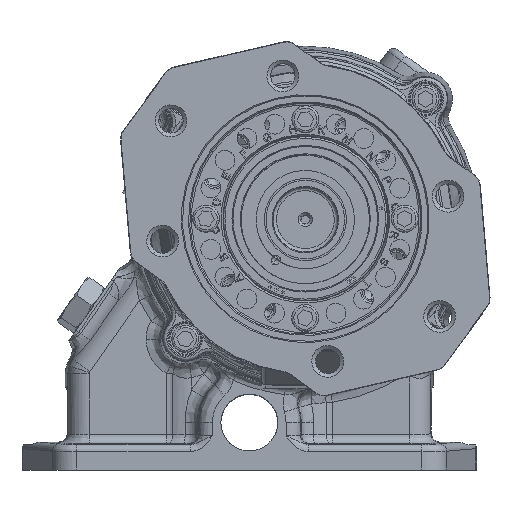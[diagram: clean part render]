
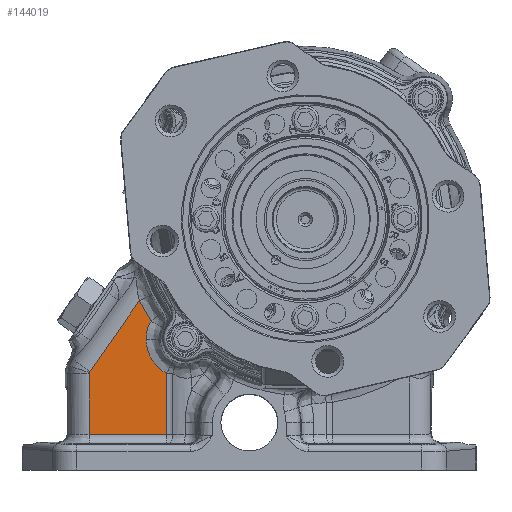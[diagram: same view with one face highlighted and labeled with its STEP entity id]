
A CAD part, top view. The second image highlights one B-rep face of the part: STEP entity #144019.
In plain terms, the highlighted planar face has unit normal (0, 0, 1).
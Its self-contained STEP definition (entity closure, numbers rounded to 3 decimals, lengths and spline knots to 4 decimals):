
#164 = CARTESIAN_POINT ( 'NONE',  ( -2.0813, 0.1191, 1.3875 ) ) ;
#534 = CARTESIAN_POINT ( 'NONE',  ( -2.486, 0.6969, 1.3875 ) ) ;
#4812 = CARTESIAN_POINT ( 'NONE',  ( -2.7136, 0.835, 1.3875 ) ) ;
#5354 = EDGE_CURVE ( 'NONE', #73165, #154603, #139060, .T. ) ;
#5367 = EDGE_CURVE ( 'NONE', #17516, #119944, #85862, .T. ) ;
#5646 = ORIENTED_EDGE ( 'NONE', *, *, #5367, .T. ) ;
#7682 = DIRECTION ( 'NONE',  ( -0.512, 0.859, 0. ) ) ;
#7962 = CARTESIAN_POINT ( 'NONE',  ( -1.8382, 0.0126, 1.3875 ) ) ;
#8598 = CARTESIAN_POINT ( 'NONE',  ( -2.7136, 0.835, 1.3875 ) ) ;
#8752 = ORIENTED_EDGE ( 'NONE', *, *, #5354, .F. ) ;
#10852 = CARTESIAN_POINT ( 'NONE',  ( -2.2717, 0.3266, 1.3875 ) ) ;
#10942 = EDGE_LOOP ( 'NONE', ( #166608, #137027, #65427, #150189, #153802, #5646, #95548, #8752, #119656 ) ) ;
#11171 = EDGE_CURVE ( 'NONE', #150808, #17516, #121508, .T. ) ;
#12205 = EDGE_CURVE ( 'NONE', #98579, #102241, #146286, .T. ) ;
#16896 = AXIS2_PLACEMENT_3D ( 'NONE', #166226, #102718, #7682 ) ;
#17040 = CARTESIAN_POINT ( 'NONE',  ( 0.9372, 0.319, 1.3875 ) ) ;
#17247 = VECTOR ( 'NONE', #39703, 39.3701 ) ;
#17516 = VERTEX_POINT ( 'NONE', #90486 ) ;
#17781 = VECTOR ( 'NONE', #69276, 39.3701 ) ;
#18930 = CARTESIAN_POINT ( 'NONE',  ( -2.8217, -0.6695, 1.3875 ) ) ;
#19920 = CARTESIAN_POINT ( 'NONE',  ( -2.7136, 0.835, 1.3875 ) ) ;
#20827 = CARTESIAN_POINT ( 'NONE',  ( -1.7947, 0.0041, 1.3875 ) ) ;
#25585 = EDGE_CURVE ( 'NONE', #54973, #98579, #134473, .T. ) ;
#25883 = CARTESIAN_POINT ( 'NONE',  ( -2.205, 0.2296, 1.3875 ) ) ;
#29685 = DIRECTION ( 'NONE',  ( -0.074, -0.997, 0. ) ) ;
#35986 = DIRECTION ( 'NONE',  ( -0.512, 0.859, 0. ) ) ;
#37034 = CARTESIAN_POINT ( 'NONE',  ( -2.1599, 0.1856, 1.3875 ) ) ;
#37166 = LINE ( 'NONE', #90275, #17247 ) ;
#39081 = CARTESIAN_POINT ( 'NONE',  ( -2.8233, -0.6626, 1.3875 ) ) ;
#39703 = DIRECTION ( 'NONE',  ( -0.512, 0.859, 0. ) ) ;
#40440 = CARTESIAN_POINT ( 'NONE',  ( -2.1613, 0.187, 1.3875 ) ) ;
#52812 = CARTESIAN_POINT ( 'NONE',  ( -2.3539, 0.5297, 1.3875 ) ) ;
#53261 = CARTESIAN_POINT ( 'NONE',  ( -2.1431, 0.1699, 1.3875 ) ) ;
#54973 = VERTEX_POINT ( 'NONE', #149480 ) ;
#59320 = VERTEX_POINT ( 'NONE', #114776 ) ;
#59812 = VECTOR ( 'NONE', #29685, 39.3701 ) ;
#61477 = CARTESIAN_POINT ( 'NONE',  ( -2.8137, -0.6892, 1.3875 ) ) ;
#61894 = CARTESIAN_POINT ( 'NONE',  ( -1.6701, -0.0034, 1.3875 ) ) ;
#62500 = B_SPLINE_CURVE_WITH_KNOTS ( 'NONE', 3,
 ( #61894, #85919, #138247, #20827, #73063, #125378, #7962, #66109, #143310, #105549, #119267, #91861, #164, #130461, #53261, #168190, #145015, #37034, #40440, #25883, #157878, #76442 ),
 .UNSPECIFIED., .F., .F.,
 ( 4, 1, 1, 1, 1, 2, 2, 2, 1, 1, 1, 1, 2, 2, 4 ),
 ( 0., 0.125, 0.1875, 0.2187, 0.2344, 0.2422, 0.25, 0.5, 0.625, 0.6875, 0.7187, 0.7344, 0.7422, 0.75, 1. ),
 .UNSPECIFIED. ) ;
#63944 = CARTESIAN_POINT ( 'NONE',  ( -2.8233, -0.6483, 1.3875 ) ) ;
#65427 = ORIENTED_EDGE ( 'NONE', *, *, #12205, .T. ) ;
#65647 = CARTESIAN_POINT ( 'NONE',  ( -2.8239, -0.6554, 1.3875 ) ) ;
#65669 = CARTESIAN_POINT ( 'NONE',  ( -2.2717, 0.3266, 1.3875 ) ) ;
#66109 = CARTESIAN_POINT ( 'NONE',  ( -1.8418, 0.0134, 1.3875 ) ) ;
#69276 = DIRECTION ( 'NONE',  ( 0.859, 0.512, 0. ) ) ;
#72100 = CARTESIAN_POINT ( 'NONE',  ( -1.6701, -0.0034, 1.3875 ) ) ;
#73063 = CARTESIAN_POINT ( 'NONE',  ( -1.8201, 0.0088, 1.3875 ) ) ;
#73165 = VERTEX_POINT ( 'NONE', #107605 ) ;
#76442 = CARTESIAN_POINT ( 'NONE',  ( -2.2717, 0.3266, 1.3875 ) ) ;
#85862 = B_SPLINE_CURVE_WITH_KNOTS ( 'NONE', 3,
 ( #88849, #534, #100896, #19920 ),
 .UNSPECIFIED., .F., .F.,
 ( 4, 4 ),
 ( 0., 1. ),
 .UNSPECIFIED. ) ;
#85919 = CARTESIAN_POINT ( 'NONE',  ( -1.6997, -0.0043, 1.3875 ) ) ;
#88849 = CARTESIAN_POINT ( 'NONE',  ( -2.366, 0.6387, 1.3875 ) ) ;
#89818 = CARTESIAN_POINT ( 'NONE',  ( -1.1294, -0.9114, 1.3875 ) ) ;
#90275 = CARTESIAN_POINT ( 'NONE',  ( -4.181, 1.6073, 1.3875 ) ) ;
#90486 = CARTESIAN_POINT ( 'NONE',  ( -2.366, 0.6387, 1.3875 ) ) ;
#91861 = CARTESIAN_POINT ( 'NONE',  ( -2.0428, 0.0944, 1.3875 ) ) ;
#92267 = CARTESIAN_POINT ( 'NONE',  ( -2.3633, 0.5836, 1.3875 ) ) ;
#95548 = ORIENTED_EDGE ( 'NONE', *, *, #122757, .T. ) ;
#98579 = VERTEX_POINT ( 'NONE', #89818 ) ;
#100896 = CARTESIAN_POINT ( 'NONE',  ( -2.6018, 0.7623, 1.3875 ) ) ;
#102241 = VERTEX_POINT ( 'NONE', #72100 ) ;
#102718 = DIRECTION ( 'NONE',  ( 0., 0., 1. ) ) ;
#105549 = CARTESIAN_POINT ( 'NONE',  ( -1.9051, 0.0283, 1.3875 ) ) ;
#107605 = CARTESIAN_POINT ( 'NONE',  ( -2.8217, -0.6695, 1.3875 ) ) ;
#114776 = CARTESIAN_POINT ( 'NONE',  ( -2.8137, -0.6892, 1.3875 ) ) ;
#117956 = CARTESIAN_POINT ( 'NONE',  ( -2.322, 0.4241, 1.3875 ) ) ;
#119267 = CARTESIAN_POINT ( 'NONE',  ( -1.962, 0.0501, 1.3875 ) ) ;
#119656 = ORIENTED_EDGE ( 'NONE', *, *, #123699, .T. ) ;
#119944 = VERTEX_POINT ( 'NONE', #8598 ) ;
#121508 = B_SPLINE_CURVE_WITH_KNOTS ( 'NONE', 3,
 ( #65669, #129161, #117956, #52812, #92267, #158286 ),
 .UNSPECIFIED., .F., .F.,
 ( 4, 2, 4 ),
 ( 0., 0.5, 1. ),
 .UNSPECIFIED. ) ;
#122757 = EDGE_CURVE ( 'NONE', #119944, #154603, #136771, .T. ) ;
#123699 = EDGE_CURVE ( 'NONE', #73165, #59320, #159639, .T. ) ;
#125378 = CARTESIAN_POINT ( 'NONE',  ( -1.8327, 0.0114, 1.3875 ) ) ;
#126649 = CARTESIAN_POINT ( 'NONE',  ( -2.82, -0.6765, 1.3875 ) ) ;
#127521 = CARTESIAN_POINT ( 'NONE',  ( -2.8173, -0.6831, 1.3875 ) ) ;
#128481 = FACE_OUTER_BOUND ( 'NONE', #10942, .T. ) ;
#129161 = CARTESIAN_POINT ( 'NONE',  ( -2.2999, 0.374, 1.3875 ) ) ;
#130461 = CARTESIAN_POINT ( 'NONE',  ( -2.123, 0.1522, 1.3875 ) ) ;
#134473 = LINE ( 'NONE', #17040, #17781 ) ;
#136771 = LINE ( 'NONE', #4812, #59812 ) ;
#137027 = ORIENTED_EDGE ( 'NONE', *, *, #25585, .T. ) ;
#138247 = CARTESIAN_POINT ( 'NONE',  ( -1.7438, -0.0027, 1.3875 ) ) ;
#139060 = B_SPLINE_CURVE_WITH_KNOTS ( 'NONE', 3,
 ( #156543, #39081, #65647, #141176 ),
 .UNSPECIFIED., .F., .F.,
 ( 4, 4 ),
 ( 0., 1. ),
 .UNSPECIFIED. ) ;
#141176 = CARTESIAN_POINT ( 'NONE',  ( -2.8233, -0.6483, 1.3875 ) ) ;
#143310 = CARTESIAN_POINT ( 'NONE',  ( -1.8435, 0.0138, 1.3875 ) ) ;
#144019 = ADVANCED_FACE ( 'NONE', ( #128481 ), #152522, .T. ) ;
#145015 = CARTESIAN_POINT ( 'NONE',  ( -2.1571, 0.1829, 1.3875 ) ) ;
#146286 = LINE ( 'NONE', #159144, #168305 ) ;
#147250 = EDGE_CURVE ( 'NONE', #54973, #59320, #37166, .T. ) ;
#149480 = CARTESIAN_POINT ( 'NONE',  ( -2.2752, -1.5936, 1.3875 ) ) ;
#150189 = ORIENTED_EDGE ( 'NONE', *, *, #153761, .T. ) ;
#150808 = VERTEX_POINT ( 'NONE', #10852 ) ;
#152522 = PLANE ( 'NONE',  #16896 ) ;
#153761 = EDGE_CURVE ( 'NONE', #102241, #150808, #62500, .T. ) ;
#153802 = ORIENTED_EDGE ( 'NONE', *, *, #11171, .T. ) ;
#154603 = VERTEX_POINT ( 'NONE', #63944 ) ;
#156543 = CARTESIAN_POINT ( 'NONE',  ( -2.8217, -0.6695, 1.3875 ) ) ;
#157878 = CARTESIAN_POINT ( 'NONE',  ( -2.2414, 0.2757, 1.3875 ) ) ;
#158286 = CARTESIAN_POINT ( 'NONE',  ( -2.366, 0.6387, 1.3875 ) ) ;
#159144 = CARTESIAN_POINT ( 'NONE',  ( -3.0352, 2.2894, 1.3875 ) ) ;
#159639 = B_SPLINE_CURVE_WITH_KNOTS ( 'NONE', 3,
 ( #18930, #126649, #127521, #61477 ),
 .UNSPECIFIED., .F., .F.,
 ( 4, 4 ),
 ( 0., 1. ),
 .UNSPECIFIED. ) ;
#166226 = CARTESIAN_POINT ( 'NONE',  ( -0.9685, 3.5199, 1.3875 ) ) ;
#166608 = ORIENTED_EDGE ( 'NONE', *, *, #147250, .F. ) ;
#168190 = CARTESIAN_POINT ( 'NONE',  ( -2.1529, 0.179, 1.3875 ) ) ;
#168305 = VECTOR ( 'NONE', #35986, 39.3701 ) ;
